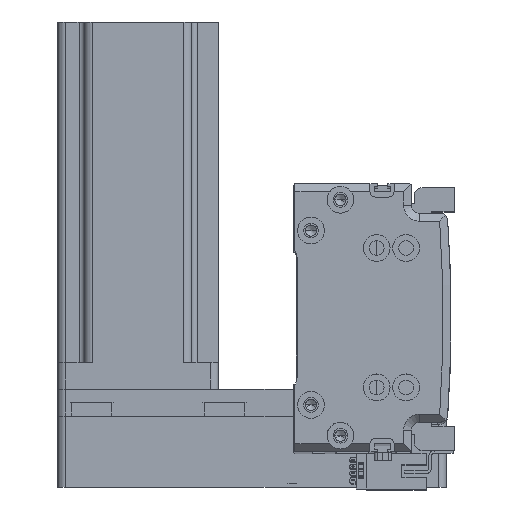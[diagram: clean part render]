
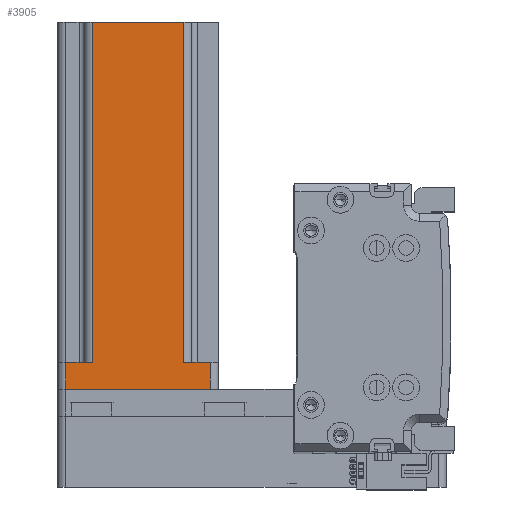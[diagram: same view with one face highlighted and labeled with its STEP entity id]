
A CAD part, top view. The second image highlights one B-rep face of the part: STEP entity #3905.
In plain terms, the highlighted planar face has unit normal (0, 0, 1) as drawn and (0, 1, 0) by its records, which use the part's own axes.
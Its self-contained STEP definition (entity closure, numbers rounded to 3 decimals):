
#437 = LINE ( 'NONE', #21432, #9738 ) ;
#1623 = ORIENTED_EDGE ( 'NONE', *, *, #22219, .F. ) ;
#2374 = VERTEX_POINT ( 'NONE', #44231 ) ;
#3098 = CARTESIAN_POINT ( 'NONE',  ( 17., 30., 137. ) ) ;
#3187 = LINE ( 'NONE', #44038, #43476 ) ;
#3905 = ADVANCED_FACE ( 'NONE', ( #9749 ), #26980, .F. ) ;
#6214 = EDGE_CURVE ( 'NONE', #32460, #26147, #3187, .T. ) ;
#6234 = DIRECTION ( 'NONE',  ( 0., -1., 0. ) ) ;
#6797 = CARTESIAN_POINT ( 'NONE',  ( -17., 30., 10. ) ) ;
#7013 = ORIENTED_EDGE ( 'NONE', *, *, #14590, .T. ) ;
#7054 = VECTOR ( 'NONE', #41024, 1000. ) ;
#7087 = EDGE_CURVE ( 'NONE', #21220, #2374, #31946, .T. ) ;
#7159 = VERTEX_POINT ( 'NONE', #6797 ) ;
#7520 = VERTEX_POINT ( 'NONE', #37025 ) ;
#8213 = DIRECTION ( 'NONE',  ( 0., 0., 1. ) ) ;
#9738 = VECTOR ( 'NONE', #42190, 1000. ) ;
#9749 = FACE_OUTER_BOUND ( 'NONE', #39033, .T. ) ;
#10878 = ORIENTED_EDGE ( 'NONE', *, *, #35872, .T. ) ;
#11338 = CARTESIAN_POINT ( 'NONE',  ( -27., 30., 10. ) ) ;
#12338 = VECTOR ( 'NONE', #34181, 1000. ) ;
#13558 = CARTESIAN_POINT ( 'NONE',  ( 27., 30., 10. ) ) ;
#14015 = EDGE_CURVE ( 'NONE', #7159, #44754, #44101, .T. ) ;
#14228 = CARTESIAN_POINT ( 'NONE',  ( -17., 30., 137. ) ) ;
#14590 = EDGE_CURVE ( 'NONE', #18568, #7159, #437, .T. ) ;
#17787 = LINE ( 'NONE', #38168, #43320 ) ;
#18568 = VERTEX_POINT ( 'NONE', #11338 ) ;
#18586 = CARTESIAN_POINT ( 'NONE',  ( -17., 30., 137. ) ) ;
#19309 = AXIS2_PLACEMENT_3D ( 'NONE', #27107, #6234, #30595 ) ;
#20876 = DIRECTION ( 'NONE',  ( -1., 0., 0. ) ) ;
#21220 = VERTEX_POINT ( 'NONE', #3098 ) ;
#21276 = LINE ( 'NONE', #22293, #37546 ) ;
#21432 = CARTESIAN_POINT ( 'NONE',  ( -20., 30., 10. ) ) ;
#21744 = VECTOR ( 'NONE', #45046, 1000. ) ;
#21811 = CARTESIAN_POINT ( 'NONE',  ( 27., 30., 0. ) ) ;
#22219 = EDGE_CURVE ( 'NONE', #21220, #44754, #33752, .T. ) ;
#22293 = CARTESIAN_POINT ( 'NONE',  ( -27., 30., 137. ) ) ;
#26147 = VERTEX_POINT ( 'NONE', #21811 ) ;
#26788 = DIRECTION ( 'NONE',  ( 0., 0., -1. ) ) ;
#26980 = PLANE ( 'NONE',  #19309 ) ;
#27107 = CARTESIAN_POINT ( 'NONE',  ( 30., 30., 137. ) ) ;
#27821 = ORIENTED_EDGE ( 'NONE', *, *, #42102, .T. ) ;
#30595 = DIRECTION ( 'NONE',  ( 1., 0., 0. ) ) ;
#30713 = CARTESIAN_POINT ( 'NONE',  ( 17., 30., 137. ) ) ;
#30823 = ORIENTED_EDGE ( 'NONE', *, *, #6214, .T. ) ;
#31946 = LINE ( 'NONE', #30713, #12338 ) ;
#32460 = VERTEX_POINT ( 'NONE', #13558 ) ;
#32811 = DIRECTION ( 'NONE',  ( 0., 0., 1. ) ) ;
#33752 = LINE ( 'NONE', #37694, #7054 ) ;
#34181 = DIRECTION ( 'NONE',  ( 0., 0., -1. ) ) ;
#34720 = CARTESIAN_POINT ( 'NONE',  ( 30., 30., 0. ) ) ;
#34819 = ORIENTED_EDGE ( 'NONE', *, *, #38568, .F. ) ;
#34880 = VECTOR ( 'NONE', #8213, 1000. ) ;
#35872 = EDGE_CURVE ( 'NONE', #26147, #7520, #39081, .T. ) ;
#37025 = CARTESIAN_POINT ( 'NONE',  ( -27., 30., 0. ) ) ;
#37546 = VECTOR ( 'NONE', #32811, 1000. ) ;
#37694 = CARTESIAN_POINT ( 'NONE',  ( 30., 30., 137. ) ) ;
#38168 = CARTESIAN_POINT ( 'NONE',  ( 20., 30., 10. ) ) ;
#38568 = EDGE_CURVE ( 'NONE', #32460, #2374, #17787, .T. ) ;
#39033 = EDGE_LOOP ( 'NONE', ( #7013, #44906, #1623, #44034, #34819, #30823, #10878, #27821 ) ) ;
#39081 = LINE ( 'NONE', #34720, #21744 ) ;
#41024 = DIRECTION ( 'NONE',  ( -1., 0., 0. ) ) ;
#42102 = EDGE_CURVE ( 'NONE', #7520, #18568, #21276, .T. ) ;
#42190 = DIRECTION ( 'NONE',  ( 1., 0., 0. ) ) ;
#43320 = VECTOR ( 'NONE', #20876, 1000. ) ;
#43476 = VECTOR ( 'NONE', #26788, 1000. ) ;
#44034 = ORIENTED_EDGE ( 'NONE', *, *, #7087, .T. ) ;
#44038 = CARTESIAN_POINT ( 'NONE',  ( 27., 30., 137. ) ) ;
#44101 = LINE ( 'NONE', #18586, #34880 ) ;
#44231 = CARTESIAN_POINT ( 'NONE',  ( 17., 30., 10. ) ) ;
#44754 = VERTEX_POINT ( 'NONE', #14228 ) ;
#44906 = ORIENTED_EDGE ( 'NONE', *, *, #14015, .T. ) ;
#45046 = DIRECTION ( 'NONE',  ( -1., 0., 0. ) ) ;
